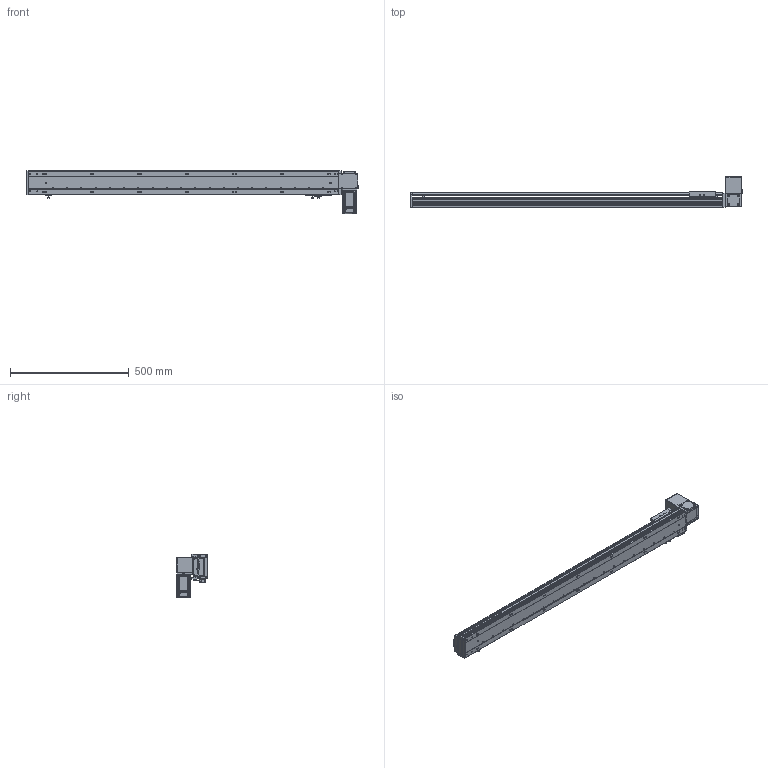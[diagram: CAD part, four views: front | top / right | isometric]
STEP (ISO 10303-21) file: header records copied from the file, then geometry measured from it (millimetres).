
FILE_DESCRIPTION (( 'STEP AP203' ), '1' );
FILE_NAME ('RY100-T-300-UL.SLDASM_1100.step', '2024-04-25T08:40:09', ( '盈信电脑' ), ( '东莞市道滘镇水果街19号' ), 'SwSTEP 2.0', 'SolidWorks 2016', '' );
FILE_SCHEMA (( 'CONFIG_CONTROL_DESIGN' ));
Length unit declared in the file: millimetre
Products named in the file (15): 1; 滅袉蝶18-10; RY100-T-300-RK倰第奻裔_1100; RY80-T肮祭謫奻殏俋欶; RY100-T翋肮祭謫裔啣; RY100-T翋肮祭謫裔啣2; RY100-T-300-RK倰第菁釱_1100; 覜茼ん672; RY100-T肮祭謫臏賑輸; RY100綴裔啣; RY100-T-300-UL.SLDASM_1100; RY100-T肮祭謫翋盓傅釱; RY100俋离覜茼え; RY100-T粣創揤踡裔; RY100-T左右折电机安装板
Assembly tree (17 placements, depth 2):
  RY100-T-300-UL.SLDASM_1100
    RY100-T-300-RK倰第菁釱_1100
    RY100-T-300-RK倰第奻裔_1100
    RY100-T肮祭謫臏賑輸
    RY100綴裔啣
    覜茼ん672  x3
    RY100俋离覜茼え
    RY100-T肮祭謫翋盓傅釱
    滅袉蝶18-10  x2
    RY100-T翋肮祭謫裔啣2
    RY100-T翋肮祭謫裔啣
    1
    RY100-T左右折电机安装板
    RY80-T肮祭謫奻殏俋欶
    RY100-T粣創揤踡裔
Bounding box: 1400 x 130.5 x 182.5 mm (x, y, z)
Volume: 2787670.5 mm3; surface area: 1151729 mm2
Topology: 17 solids, 17 shells, 2203 faces, 6121 edges, 3975 vertices
Faces by surface type: plane 1203, cylinder 791, cone 131, bspline 78
Entity records: 70853 total; most frequent: CARTESIAN_POINT 17023, ORIENTED_EDGE 11074, DIRECTION 10555, EDGE_CURVE 5537, VERTEX_POINT 3643, LINE 3591, VECTOR 3591, AXIS2_PLACEMENT_3D 3482
